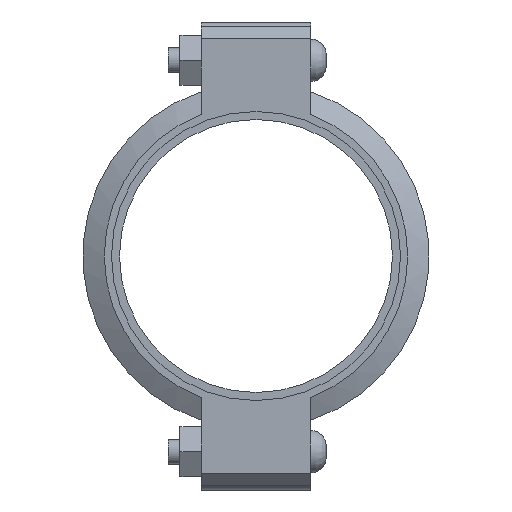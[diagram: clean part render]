
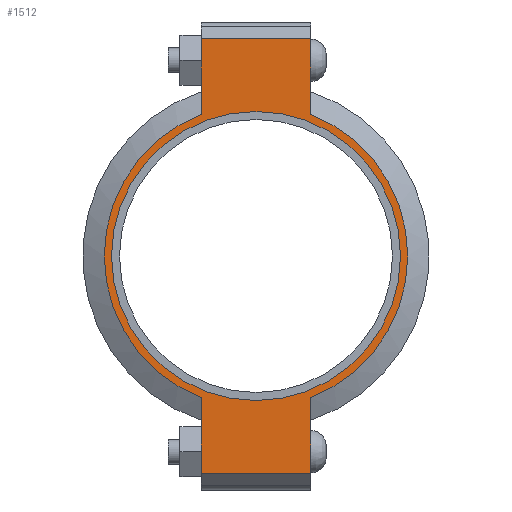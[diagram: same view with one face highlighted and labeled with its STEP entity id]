
A CAD part, left-side view. The second image highlights one B-rep face of the part: STEP entity #1512.
In plain terms, the highlighted planar face has unit normal (-1, 0, 0) as drawn and (0, 0, 1) by its records, which use the part's own axes.
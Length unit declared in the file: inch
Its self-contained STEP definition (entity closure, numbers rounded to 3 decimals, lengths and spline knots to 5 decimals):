
#192=LINE('',#2605,#283);
#200=LINE('',#2641,#291);
#207=LINE('',#2662,#298);
#216=LINE('',#2694,#307);
#217=LINE('',#2698,#308);
#218=LINE('',#2700,#309);
#283=VECTOR('',#2099,0.3937);
#291=VECTOR('',#2115,0.3937);
#298=VECTOR('',#2134,0.3937);
#307=VECTOR('',#2159,0.3937);
#308=VECTOR('',#2164,0.3937);
#309=VECTOR('',#2165,0.3937);
#361=FACE_BOUND('',#521,.T.);
#425=FACE_OUTER_BOUND('',#520,.T.);
#520=EDGE_LOOP('',(#1247,#1248,#1249,#1250,#1251,#1252,#1253,#1254));
#521=EDGE_LOOP('',(#1255));
#618=CIRCLE('',#1755,4.53);
#619=CIRCLE('',#1756,4.53);
#620=CIRCLE('',#1757,4.3125);
#723=VERTEX_POINT('',#2602);
#724=VERTEX_POINT('',#2604);
#735=VERTEX_POINT('',#2636);
#736=VERTEX_POINT('',#2640);
#743=VERTEX_POINT('',#2659);
#744=VERTEX_POINT('',#2661);
#754=VERTEX_POINT('',#2697);
#755=VERTEX_POINT('',#2699);
#756=VERTEX_POINT('',#2702);
#887=EDGE_CURVE('',#724,#723,#192,.T.);
#901=EDGE_CURVE('',#736,#735,#200,.T.);
#911=EDGE_CURVE('',#744,#743,#207,.T.);
#926=EDGE_CURVE('',#736,#723,#216,.T.);
#927=EDGE_CURVE('',#735,#744,#618,.T.);
#928=EDGE_CURVE('',#754,#743,#217,.T.);
#929=EDGE_CURVE('',#754,#755,#218,.T.);
#930=EDGE_CURVE('',#755,#724,#619,.T.);
#931=EDGE_CURVE('',#756,#756,#620,.T.);
#1247=ORIENTED_EDGE('',*,*,#926,.F.);
#1248=ORIENTED_EDGE('',*,*,#901,.T.);
#1249=ORIENTED_EDGE('',*,*,#927,.T.);
#1250=ORIENTED_EDGE('',*,*,#911,.T.);
#1251=ORIENTED_EDGE('',*,*,#928,.F.);
#1252=ORIENTED_EDGE('',*,*,#929,.T.);
#1253=ORIENTED_EDGE('',*,*,#930,.T.);
#1254=ORIENTED_EDGE('',*,*,#887,.T.);
#1255=ORIENTED_EDGE('',*,*,#931,.T.);
#1366=PLANE('',#1754);
#1512=ADVANCED_FACE('',(#425,#361),#1366,.T.);
#1754=AXIS2_PLACEMENT_3D('',#2695,#2160,#2161);
#1755=AXIS2_PLACEMENT_3D('',#2696,#2162,#2163);
#1756=AXIS2_PLACEMENT_3D('',#2701,#2166,#2167);
#1757=AXIS2_PLACEMENT_3D('',#2703,#2168,#2169);
#2099=DIRECTION('',(-1.,0.,0.));
#2115=DIRECTION('',(1.,0.,0.));
#2134=DIRECTION('',(1.,0.,0.));
#2159=DIRECTION('',(0.,1.,0.));
#2160=DIRECTION('center_axis',(0.,0.,1.));
#2161=DIRECTION('ref_axis',(1.,0.,0.));
#2162=DIRECTION('center_axis',(0.,0.,1.));
#2163=DIRECTION('ref_axis',(-1.,0.,0.));
#2164=DIRECTION('',(0.,-1.,0.));
#2165=DIRECTION('',(-1.,0.,0.));
#2166=DIRECTION('center_axis',(0.,0.,1.));
#2167=DIRECTION('ref_axis',(-1.,0.,0.));
#2168=DIRECTION('center_axis',(0.,0.,-1.));
#2169=DIRECTION('ref_axis',(-1.,0.,0.));
#2602=CARTESIAN_POINT('',(-6.485,1.63,1.16));
#2604=CARTESIAN_POINT('',(-4.22658,1.63,1.16));
#2605=CARTESIAN_POINT('',(-6.985,1.63,1.16));
#2636=CARTESIAN_POINT('',(-4.22658,-1.63,1.16));
#2640=CARTESIAN_POINT('',(-6.485,-1.63,1.16));
#2641=CARTESIAN_POINT('',(6.985,-1.63,1.16));
#2659=CARTESIAN_POINT('',(6.485,-1.63,1.16));
#2661=CARTESIAN_POINT('',(4.22658,-1.63,1.16));
#2662=CARTESIAN_POINT('',(6.985,-1.63,1.16));
#2694=CARTESIAN_POINT('',(-6.485,0.815,1.16));
#2695=CARTESIAN_POINT('Origin',(0.,0.,
1.16));
#2696=CARTESIAN_POINT('Origin',(0.,0.,1.16));
#2697=CARTESIAN_POINT('',(6.485,1.63,1.16));
#2698=CARTESIAN_POINT('',(6.485,-0.815,1.16));
#2699=CARTESIAN_POINT('',(4.22658,1.63,1.16));
#2700=CARTESIAN_POINT('',(-6.985,1.63,1.16));
#2701=CARTESIAN_POINT('Origin',(0.,0.,1.16));
#2702=CARTESIAN_POINT('',(4.3125,0.,1.16));
#2703=CARTESIAN_POINT('Origin',(0.,0.,1.16));
